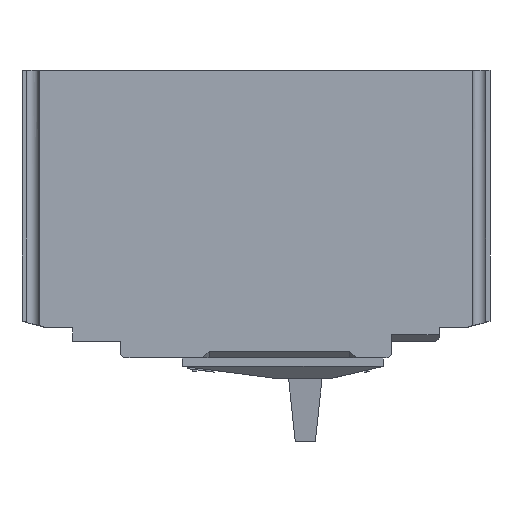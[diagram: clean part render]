
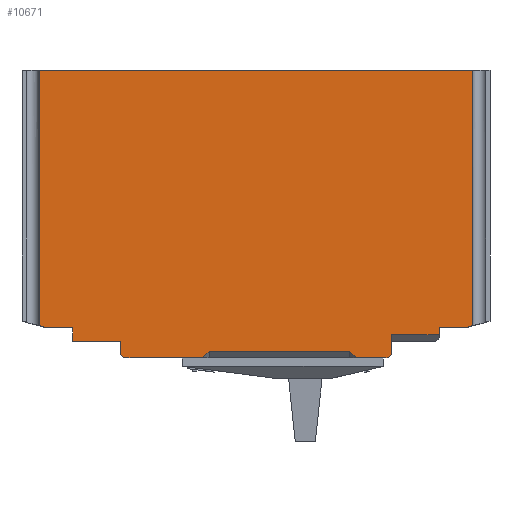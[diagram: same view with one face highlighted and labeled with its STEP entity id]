
A CAD part, left-side view. The second image highlights one B-rep face of the part: STEP entity #10671.
In plain terms, the highlighted planar face has unit normal (-1, 0, 0).
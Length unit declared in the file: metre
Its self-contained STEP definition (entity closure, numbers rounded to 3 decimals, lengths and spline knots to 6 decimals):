
#759=FACE_OUTER_BOUND('',#1368,.T.);
#1368=EDGE_LOOP('',(#9628,#9629,#9630,#9631,#9632,#9633,#9634,#9635,#9636,
#9637,#9638,#9639,#9640,#9641,#9642,#9643,#9644,#9645,#9646,#9647));
#2629=LINE('',#16369,#3986);
#2634=LINE('',#16378,#3991);
#2724=LINE('',#17079,#4081);
#2725=LINE('',#17082,#4082);
#2728=LINE('',#17088,#4085);
#2731=LINE('',#17093,#4088);
#2742=LINE('',#17467,#4099);
#2747=LINE('',#17478,#4104);
#2749=LINE('',#17484,#4106);
#2750=LINE('',#17490,#4107);
#2783=LINE('',#17568,#4140);
#2787=LINE('',#17739,#4144);
#2791=LINE('',#17806,#4148);
#2794=LINE('',#17811,#4151);
#2798=LINE('',#17818,#4155);
#2800=LINE('',#17823,#4157);
#2803=LINE('',#17829,#4160);
#2810=LINE('',#17842,#4167);
#2812=LINE('',#17844,#4169);
#2813=LINE('',#17846,#4170);
#3986=VECTOR('',#13372,0.042);
#3991=VECTOR('',#13379,0.002828);
#4081=VECTOR('',#13675,0.001414);
#4082=VECTOR('',#13678,0.004);
#4085=VECTOR('',#13683,0.0143);
#4088=VECTOR('',#13688,0.004);
#4099=VECTOR('',#13767,0.0077);
#4104=VECTOR('',#13780,0.002484);
#4106=VECTOR('',#13788,0.07636);
#4107=VECTOR('',#13793,0.07636);
#4140=VECTOR('',#13866,0.1298);
#4144=VECTOR('',#13886,0.002484);
#4148=VECTOR('',#13898,0.0077);
#4151=VECTOR('',#13903,0.002);
#4155=VECTOR('',#13909,0.0143);
#4157=VECTOR('',#13915,0.006);
#4160=VECTOR('',#13920,0.001414);
#4167=VECTOR('',#13933,0.0095);
#4169=VECTOR('',#13935,0.0235);
#4170=VECTOR('',#13938,0.002828);
#4959=VERTEX_POINT('',#16367);
#4960=VERTEX_POINT('',#16368);
#4963=VERTEX_POINT('',#16376);
#5081=VERTEX_POINT('',#17073);
#5083=VERTEX_POINT('',#17077);
#5084=VERTEX_POINT('',#17081);
#5086=VERTEX_POINT('',#17087);
#5087=VERTEX_POINT('',#17092);
#5120=VERTEX_POINT('',#17466);
#5122=VERTEX_POINT('',#17477);
#5123=VERTEX_POINT('',#17482);
#5124=VERTEX_POINT('',#17486);
#5126=VERTEX_POINT('',#17489);
#5162=VERTEX_POINT('',#17738);
#5165=VERTEX_POINT('',#17805);
#5166=VERTEX_POINT('',#17810);
#5168=VERTEX_POINT('',#17815);
#5169=VERTEX_POINT('',#17822);
#5171=VERTEX_POINT('',#17828);
#5174=VERTEX_POINT('',#17841);
#6355=EDGE_CURVE('',#4959,#4960,#2629,.T.);
#6360=EDGE_CURVE('',#4963,#4960,#2634,.T.);
#6514=EDGE_CURVE('',#5081,#5083,#2724,.T.);
#6515=EDGE_CURVE('',#5084,#5081,#2725,.T.);
#6518=EDGE_CURVE('',#5084,#5086,#2728,.T.);
#6521=EDGE_CURVE('',#5087,#5086,#2731,.T.);
#6567=EDGE_CURVE('',#5087,#5120,#2742,.T.);
#6574=EDGE_CURVE('',#5122,#5120,#2747,.T.);
#6578=EDGE_CURVE('',#5122,#5123,#2749,.T.);
#6580=EDGE_CURVE('',#5124,#5126,#2750,.T.);
#6620=EDGE_CURVE('',#5123,#5124,#2783,.T.);
#6635=EDGE_CURVE('',#5162,#5126,#2787,.T.);
#6643=EDGE_CURVE('',#5162,#5165,#2791,.T.);
#6646=EDGE_CURVE('',#5165,#5166,#2794,.T.);
#6650=EDGE_CURVE('',#5166,#5168,#2798,.T.);
#6652=EDGE_CURVE('',#5169,#5168,#2800,.T.);
#6655=EDGE_CURVE('',#5171,#5169,#2803,.T.);
#6662=EDGE_CURVE('',#5171,#5174,#2810,.T.);
#6664=EDGE_CURVE('',#4963,#5083,#2812,.T.);
#6665=EDGE_CURVE('',#5174,#4959,#2813,.T.);
#9628=ORIENTED_EDGE('',*,*,#6662,.F.);
#9629=ORIENTED_EDGE('',*,*,#6655,.T.);
#9630=ORIENTED_EDGE('',*,*,#6652,.T.);
#9631=ORIENTED_EDGE('',*,*,#6650,.F.);
#9632=ORIENTED_EDGE('',*,*,#6646,.F.);
#9633=ORIENTED_EDGE('',*,*,#6643,.F.);
#9634=ORIENTED_EDGE('',*,*,#6635,.T.);
#9635=ORIENTED_EDGE('',*,*,#6580,.F.);
#9636=ORIENTED_EDGE('',*,*,#6620,.F.);
#9637=ORIENTED_EDGE('',*,*,#6578,.F.);
#9638=ORIENTED_EDGE('',*,*,#6574,.T.);
#9639=ORIENTED_EDGE('',*,*,#6567,.F.);
#9640=ORIENTED_EDGE('',*,*,#6521,.T.);
#9641=ORIENTED_EDGE('',*,*,#6518,.F.);
#9642=ORIENTED_EDGE('',*,*,#6515,.T.);
#9643=ORIENTED_EDGE('',*,*,#6514,.T.);
#9644=ORIENTED_EDGE('',*,*,#6664,.F.);
#9645=ORIENTED_EDGE('',*,*,#6360,.T.);
#9646=ORIENTED_EDGE('',*,*,#6355,.F.);
#9647=ORIENTED_EDGE('',*,*,#6665,.F.);
#10126=PLANE('',#11314);
#10671=ADVANCED_FACE('',(#759),#10126,.F.);
#11314=AXIS2_PLACEMENT_3D('',#17847,#13939,#13940);
#13372=DIRECTION('',(0.,1.,0.));
#13379=DIRECTION('',(0.,-0.707,0.707));
#13675=DIRECTION('',(0.,-0.707,-0.707));
#13678=DIRECTION('',(0.,0.,-1.));
#13683=DIRECTION('',(0.,1.,0.));
#13688=DIRECTION('',(0.,0.,-1.));
#13767=DIRECTION('',(0.,1.,0.));
#13780=DIRECTION('',(0.,-0.966,-0.258));
#13788=DIRECTION('',(0.,0.,1.));
#13793=DIRECTION('',(0.,0.,-1.));
#13866=DIRECTION('',(0.,-1.,0.));
#13886=DIRECTION('',(0.,-0.966,0.258));
#13898=DIRECTION('',(0.,1.,0.));
#13903=DIRECTION('',(0.,0.,-1.));
#13909=DIRECTION('',(0.,1.,0.));
#13915=DIRECTION('',(0.,0.,1.));
#13920=DIRECTION('',(0.,-0.707,0.707));
#13933=DIRECTION('',(0.,1.,0.));
#13935=DIRECTION('',(0.,1.,0.));
#13938=DIRECTION('',(0.,0.707,0.707));
#13939=DIRECTION('center_axis',(1.,0.,0.));
#13940=DIRECTION('ref_axis',(0.,0.,-1.));
#16367=CARTESIAN_POINT('',(-0.045,-0.028,-0.007));
#16368=CARTESIAN_POINT('',(-0.045,0.014,-0.007));
#16369=CARTESIAN_POINT('',(-0.045,-0.028,-0.007));
#16376=CARTESIAN_POINT('',(-0.045,0.016,-0.009));
#16378=CARTESIAN_POINT('',(-0.045,0.016,-0.009));
#17073=CARTESIAN_POINT('',(-0.045,0.0405,-0.008));
#17077=CARTESIAN_POINT('',(-0.045,0.0395,-0.009));
#17079=CARTESIAN_POINT('',(-0.045,0.0405,-0.008));
#17081=CARTESIAN_POINT('',(-0.045,0.0405,-0.004));
#17082=CARTESIAN_POINT('',(-0.045,0.0405,-0.004));
#17087=CARTESIAN_POINT('',(-0.045,0.0548,-0.004));
#17088=CARTESIAN_POINT('',(-0.045,0.0405,-0.004));
#17092=CARTESIAN_POINT('',(-0.045,0.0548,0.));
#17093=CARTESIAN_POINT('',(-0.045,0.0548,0.));
#17466=CARTESIAN_POINT('',(-0.045,0.0625,0.));
#17467=CARTESIAN_POINT('',(-0.045,0.0548,0.));
#17477=CARTESIAN_POINT('',(-0.045,0.0649,0.00064));
#17478=CARTESIAN_POINT('',(-0.045,0.0649,0.00064));
#17482=CARTESIAN_POINT('',(-0.045,0.0649,0.077));
#17484=CARTESIAN_POINT('',(-0.045,0.0649,0.00064));
#17486=CARTESIAN_POINT('',(-0.045,-0.0649,0.077));
#17489=CARTESIAN_POINT('',(-0.045,-0.0649,0.00064));
#17490=CARTESIAN_POINT('',(-0.045,-0.0649,0.077));
#17568=CARTESIAN_POINT('',(-0.045,0.0649,0.077));
#17738=CARTESIAN_POINT('',(-0.045,-0.0625,0.));
#17739=CARTESIAN_POINT('',(-0.045,-0.0625,0.));
#17805=CARTESIAN_POINT('',(-0.045,-0.0548,0.));
#17806=CARTESIAN_POINT('',(-0.045,-0.0625,0.));
#17810=CARTESIAN_POINT('',(-0.045,-0.0548,-0.002));
#17811=CARTESIAN_POINT('',(-0.045,-0.0548,0.));
#17815=CARTESIAN_POINT('',(-0.045,-0.0405,-0.002));
#17818=CARTESIAN_POINT('',(-0.045,-0.0548,-0.002));
#17822=CARTESIAN_POINT('',(-0.045,-0.0405,-0.008));
#17823=CARTESIAN_POINT('',(-0.045,-0.0405,-0.008));
#17828=CARTESIAN_POINT('',(-0.045,-0.0395,-0.009));
#17829=CARTESIAN_POINT('',(-0.045,-0.0395,-0.009));
#17841=CARTESIAN_POINT('',(-0.045,-0.03,-0.009));
#17842=CARTESIAN_POINT('',(-0.045,-0.0395,-0.009));
#17844=CARTESIAN_POINT('',(-0.045,0.016,-0.009));
#17846=CARTESIAN_POINT('',(-0.045,-0.03,-0.009));
#17847=CARTESIAN_POINT('Origin',(-0.045,0.,0.));
